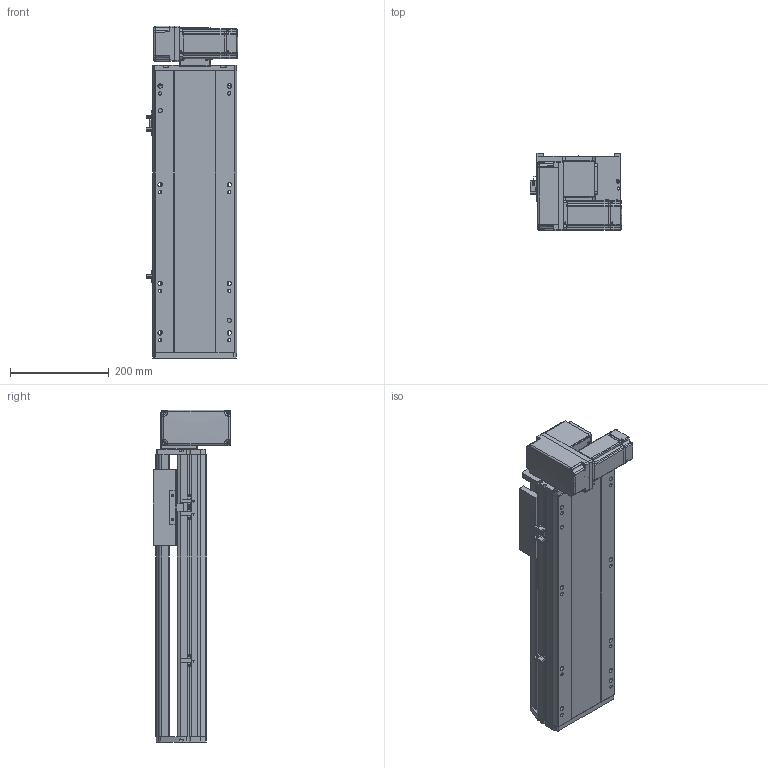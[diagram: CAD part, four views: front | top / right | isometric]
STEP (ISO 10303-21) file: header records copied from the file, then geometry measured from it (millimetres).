
FILE_DESCRIPTION (( 'STEP AP214' ), '1' );
FILE_NAME ('RTB17S-XX-300-LM-M40-C4.STEP', '2025-12-11T06:21:43', ( '' ), ( '' ), 'SwSTEP 2.0', 'SolidWorks 2018', '' );
FILE_SCHEMA (( 'AUTOMOTIVE_DESIGN' ));
Length unit declared in the file: millimetre
Products named in the file (14): RMP17S-L-014-T20--々湍釱^RTB17S-LM-々湍釱蚾饜-400W_RTB17S-XX-XX-LM-M40-C4; RTB17S-XX-300-LM-M40-C4; 400W侜督萇儂^RTB17S-XX-XX-LM-M40-C4; RTB17S-L-001耜醱啣^RTB17S-XX-XX-LM-M40-C4; RTB17S-L-007奻裔^RTB17S-XX-XX-LM-M40-C4; RTB17S-LM-々湍釱蚾饜-400W^RTB17S-XX-XX-LM-M40-C4; RTB17-R-011菁釱^RTB17S-XX-XX-LM-M40-C4; OMRON EE-SX672 传感器^RTB17S-XX-XX-LM-M40-C4; RTB14-L-008-M20--萇儂啣^RTB17S-LM-々湍釱蚾饜-400W_RTB17S-XX-XX-LM-M40-C4; RTB14-L-005P--轴承塑胶压盖^RTB17S-LM-皮带座装配-400W_RTB17S-XX-XX-LM-M40-C4; RTB17S-L-004佪裝蹟譫蟀諉釱^RTB17S-XX-XX-LM-M40-C4; RTB14-L-017P^RTB17S-LM-々湍釱蚾饜-400W_RTB17S-XX-XX-LM-M40-C4; RTH13-BL-012覜茼え俋离^RTB17S-XX-XX-LM-M40-C4; RTB14-L-018P^RTB17S-LM-々湍釱蚾饜-400W_RTB17S-XX-XX-LM-M40-C4
Assembly tree (16 placements, depth 3):
  RTB17S-XX-300-LM-M40-C4
    RTB17-R-011菁釱^RTB17S-XX-XX-LM-M40-C4
    RTB17S-L-007奻裔^RTB17S-XX-XX-LM-M40-C4
    OMRON EE-SX672 传感器^RTB17S-XX-XX-LM-M40-C4  x3
    RTH13-BL-012覜茼え俋离^RTB17S-XX-XX-LM-M40-C4
    RTB17S-L-001耜醱啣^RTB17S-XX-XX-LM-M40-C4
    400W侜督萇儂^RTB17S-XX-XX-LM-M40-C4
    RTB17S-L-004佪裝蹟譫蟀諉釱^RTB17S-XX-XX-LM-M40-C4
    RTB17S-LM-々湍釱蚾饜-400W^RTB17S-XX-XX-LM-M40-C4
      RMP17S-L-014-T20--々湍釱^RTB17S-LM-々湍釱蚾饜-400W_RTB17S-XX-XX-LM-M40-C4
      RTB14-L-005P--轴承塑胶压盖^RTB17S-LM-皮带座装配-400W_RTB17S-XX-XX-LM-M40-C4
      RTB14-L-008-M20--萇儂啣^RTB17S-LM-々湍釱蚾饜-400W_RTB17S-XX-XX-LM-M40-C4
      RTB14-L-017P^RTB17S-LM-々湍釱蚾饜-400W_RTB17S-XX-XX-LM-M40-C4  x2
      RTB14-L-018P^RTB17S-LM-々湍釱蚾饜-400W_RTB17S-XX-XX-LM-M40-C4
Bounding box: 186 x 156.5 x 672.5 mm (x, y, z)
Volume: 6663312.5 mm3; surface area: 876460.2 mm2
Topology: 15 solids, 15 shells, 2157 faces, 5925 edges, 3861 vertices
Faces by surface type: plane 1062, cylinder 647, bspline 301, cone 139, torus 8
Entity records: 60329 total; most frequent: CARTESIAN_POINT 16730, ORIENTED_EDGE 8694, DIRECTION 8126, EDGE_CURVE 4347, VERTEX_POINT 2849, AXIS2_PLACEMENT_3D 2779, LINE 2568, VECTOR 2568
